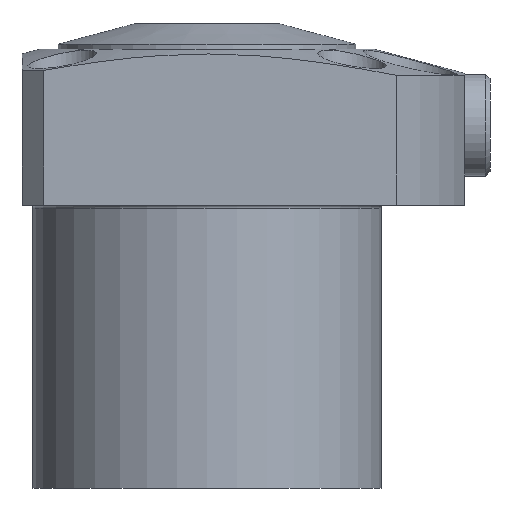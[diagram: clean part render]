
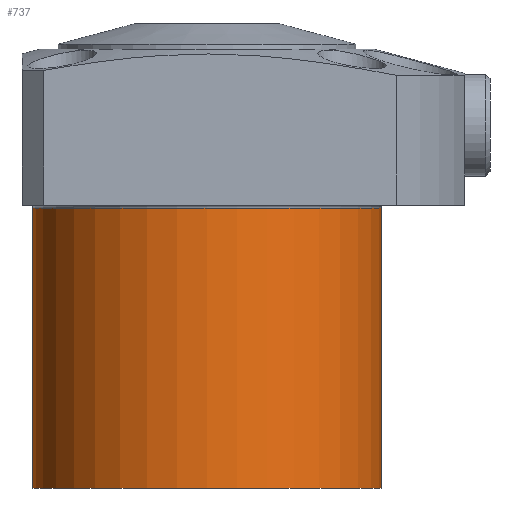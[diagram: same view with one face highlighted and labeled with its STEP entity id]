
A CAD part, front view. The second image highlights one B-rep face of the part: STEP entity #737.
In plain terms, the highlighted cylindrical face has radius 24 mm (diameter 48 mm), a partial arc.
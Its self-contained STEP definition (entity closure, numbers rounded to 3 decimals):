
#614=CYLINDRICAL_SURFACE('',#3075,24.);
#737=ADVANCED_FACE('',(#926),#614,.T.);
#926=FACE_OUTER_BOUND('',#1096,.T.);
#1096=EDGE_LOOP('',(#1915,#1916,#1917,#1918));
#1212=LINE('',#4288,#1357);
#1213=LINE('',#4290,#1358);
#1357=VECTOR('',#3351,1.);
#1358=VECTOR('',#3354,1.);
#1915=ORIENTED_EDGE('',*,*,#2421,.F.);
#1916=ORIENTED_EDGE('',*,*,#2601,.T.);
#1917=ORIENTED_EDGE('',*,*,#2423,.T.);
#1918=ORIENTED_EDGE('',*,*,#2418,.T.);
#2202=VERTEX_POINT('',#4280);
#2203=VERTEX_POINT('',#4282);
#2204=VERTEX_POINT('',#4286);
#2205=VERTEX_POINT('',#4287);
#2418=EDGE_CURVE('',#2203,#2202,#2690,.T.);
#2421=EDGE_CURVE('',#2205,#2202,#1212,.T.);
#2423=EDGE_CURVE('',#2204,#2203,#1213,.T.);
#2601=EDGE_CURVE('',#2205,#2204,#2798,.T.);
#2690=CIRCLE('',#2891,24.);
#2798=CIRCLE('',#3073,24.);
#2891=AXIS2_PLACEMENT_3D('',#4281,#3343,#3344);
#3073=AXIS2_PLACEMENT_3D('',#4767,#3767,#3768);
#3075=AXIS2_PLACEMENT_3D('',#4769,#3771,#3772);
#3343=DIRECTION('',(0.,0.,-1.));
#3344=DIRECTION('',(1.,0.,0.));
#3351=DIRECTION('',(0.,0.,1.));
#3354=DIRECTION('',(0.,0.,1.));
#3767=DIRECTION('',(0.,0.,1.));
#3768=DIRECTION('',(1.,0.,0.));
#3771=DIRECTION('',(0.,0.,1.));
#3772=DIRECTION('',(-1.,0.,0.));
#4280=CARTESIAN_POINT('',(-24.,0.,-0.4));
#4281=CARTESIAN_POINT('',(0.,0.,-0.4));
#4282=CARTESIAN_POINT('',(24.,0.,-0.4));
#4286=CARTESIAN_POINT('',(24.,0.,-39.));
#4287=CARTESIAN_POINT('',(-24.,0.,-39.));
#4288=CARTESIAN_POINT('',(-24.,0.,30.));
#4290=CARTESIAN_POINT('',(24.,0.,30.));
#4767=CARTESIAN_POINT('',(0.,0.,-39.));
#4769=CARTESIAN_POINT('',(0.,0.,30.));
